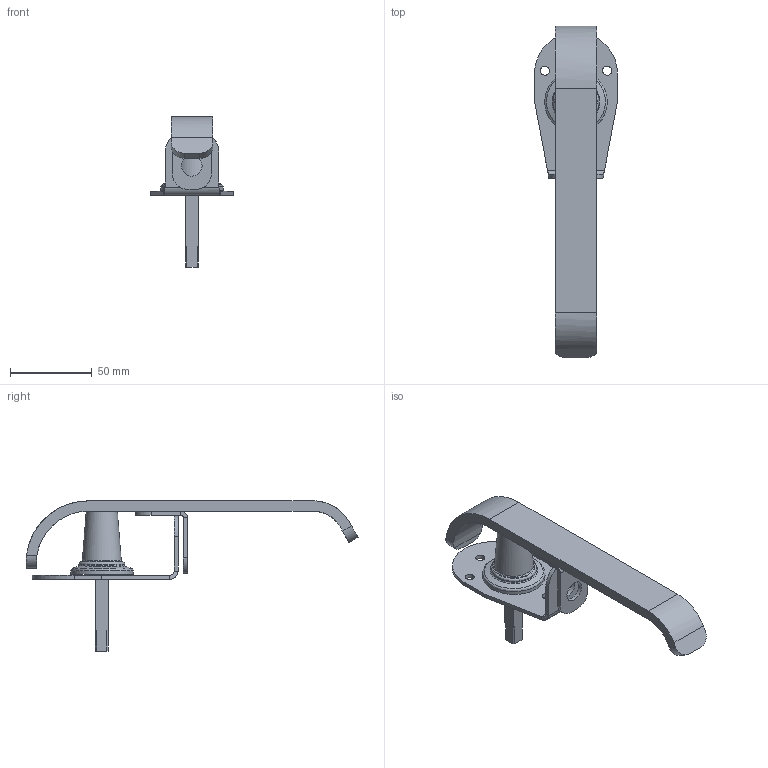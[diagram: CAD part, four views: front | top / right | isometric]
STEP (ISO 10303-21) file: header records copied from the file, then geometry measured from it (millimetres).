
FILE_DESCRIPTION((''),'2;1');
FILE_NAME('D:\a00150\87548145_L36_handle_assy_dm.stp', '2005-09-29T12:55:20',('User'),('SDRC'),'I-DEAS Master Series 9','UNIX', 'Yes');
FILE_SCHEMA(('AUTOMOTIVE_DESIGN { 1 0 10303 214 0 1 1 1 }'));
Length unit declared in the file: inch
Products named in the file (6): 87548145; base plate L36; handle L36; sq shaft L36; spindle L36; locking hasp L36
Assembly tree (5 placements, depth 2):
  87548145
    base plate L36
    handle L36
    sq shaft L36
    spindle L36
    locking hasp L36
Bounding box: 50.8 x 203.2 x 91.99 mm (x, y, z)
Volume: 56770.2 mm3; surface area: 35859.6 mm2
Topology: 4 solids, 5 shells, 93 faces, 224 edges, 142 vertices
Faces by surface type: bspline 93
Entity records: 3171 total; most frequent: CARTESIAN_POINT 1433, ORIENTED_EDGE 446, EDGE_CURVE 224, VERTEX_POINT 142, EDGE_LOOP 110, QUASI_UNIFORM_CURVE 102, FACE_OUTER_BOUND 93, ADVANCED_FACE 93
